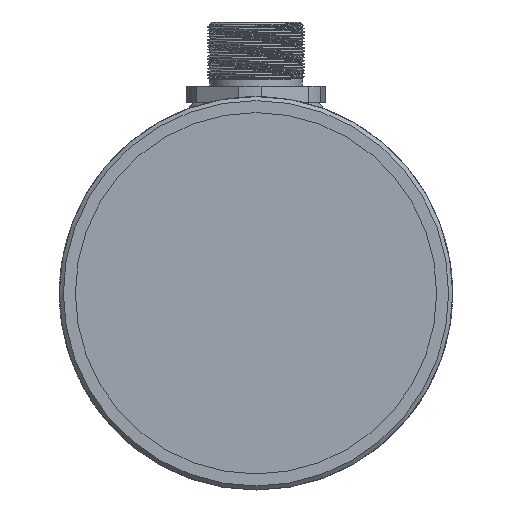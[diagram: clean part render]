
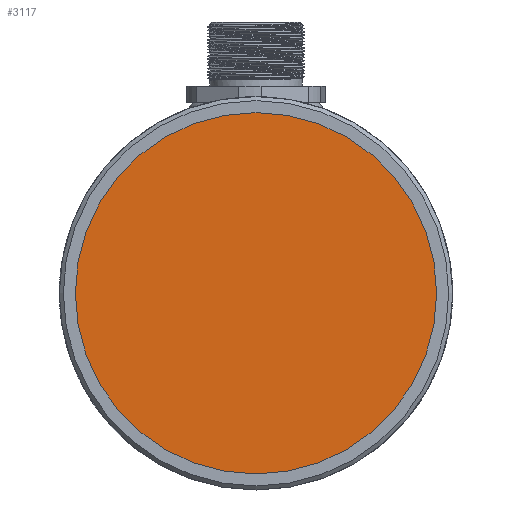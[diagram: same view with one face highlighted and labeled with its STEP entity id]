
A CAD part, left-side view. The second image highlights one B-rep face of the part: STEP entity #3117.
In plain terms, the highlighted planar face has unit normal (-1, 0, 0).
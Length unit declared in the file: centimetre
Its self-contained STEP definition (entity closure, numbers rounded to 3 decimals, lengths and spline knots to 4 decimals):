
#991=PLANE('',#3328);
#1073=CIRCLE('',#3326,2.25);
#1244=VERTEX_POINT('',#4863);
#1612=EDGE_CURVE('',#1244,#1244,#1073,.T.);
#2086=ORIENTED_EDGE('',*,*,#1612,.T.);
#2668=EDGE_LOOP('',(#2086));
#2899=FACE_BOUND('',#2668,.T.);
#3117=ADVANCED_FACE('',(#2899),#991,.T.);
#3326=AXIS2_PLACEMENT_3D('',#4862,#3665,#3666);
#3328=AXIS2_PLACEMENT_3D('',#4866,#3669,$);
#3665=DIRECTION('',(-1.,0.,0.));
#3666=DIRECTION('',(0.,0.,2.25));
#3669=DIRECTION('',(-1.,0.,0.));
#4862=CARTESIAN_POINT('',(0.1,0.,0.));
#4863=CARTESIAN_POINT('',(0.1,0.,2.25));
#4866=CARTESIAN_POINT('',(0.1,0.,0.));
